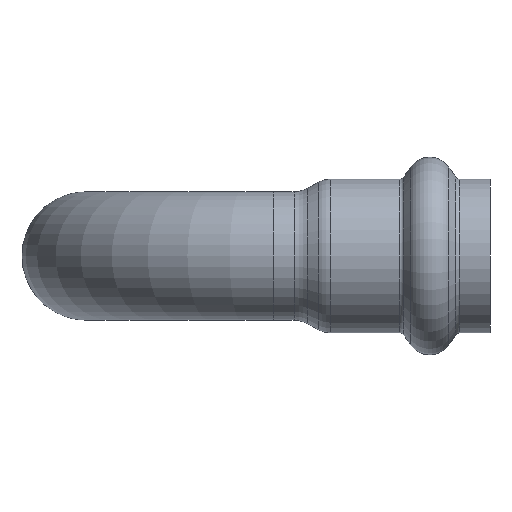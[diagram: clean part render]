
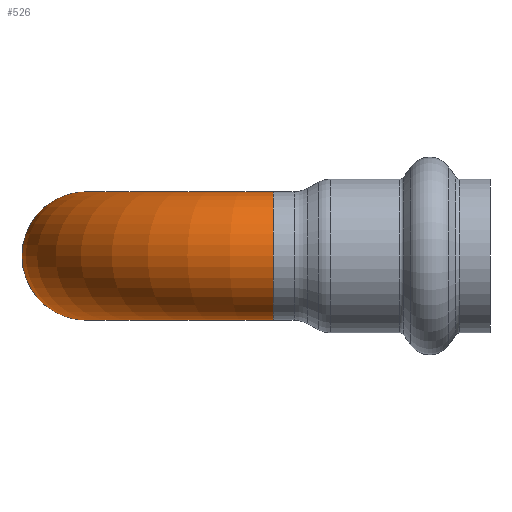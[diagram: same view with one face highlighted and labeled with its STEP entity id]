
A CAD part, left-side view. The second image highlights one B-rep face of the part: STEP entity #526.
In plain terms, the highlighted toroidal (fillet/blend) face has major radius 31.09 mm and minor radius 10.668 mm.
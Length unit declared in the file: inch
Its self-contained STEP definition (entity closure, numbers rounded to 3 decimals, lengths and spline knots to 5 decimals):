
#94=FACE_OUTER_BOUND('',#118,.T.);
#118=EDGE_LOOP('',(#359,#360,#361,#362,#363,#364));
#148=CIRCLE('',#576,0.42);
#149=CIRCLE('',#577,0.804);
#150=CIRCLE('',#578,0.42);
#151=CIRCLE('',#579,0.42);
#152=CIRCLE('',#580,0.42);
#215=VERTEX_POINT('',#912);
#216=VERTEX_POINT('',#913);
#217=VERTEX_POINT('',#915);
#218=VERTEX_POINT('',#917);
#276=EDGE_CURVE('',#215,#216,#148,.T.);
#277=EDGE_CURVE('',#216,#217,#149,.T.);
#278=EDGE_CURVE('',#217,#218,#150,.T.);
#279=EDGE_CURVE('',#218,#217,#151,.T.);
#280=EDGE_CURVE('',#216,#215,#152,.T.);
#359=ORIENTED_EDGE('',*,*,#276,.T.);
#360=ORIENTED_EDGE('',*,*,#277,.T.);
#361=ORIENTED_EDGE('',*,*,#278,.T.);
#362=ORIENTED_EDGE('',*,*,#279,.T.);
#363=ORIENTED_EDGE('',*,*,#277,.F.);
#364=ORIENTED_EDGE('',*,*,#280,.T.);
#518=TOROIDAL_SURFACE('',#575,1.224,0.42);
#526=ADVANCED_FACE('',(#94),#518,.T.);
#575=AXIS2_PLACEMENT_3D('',#911,#688,#689);
#576=AXIS2_PLACEMENT_3D('',#914,#690,#691);
#577=AXIS2_PLACEMENT_3D('',#916,#692,#693);
#578=AXIS2_PLACEMENT_3D('',#918,#694,#695);
#579=AXIS2_PLACEMENT_3D('',#919,#696,#697);
#580=AXIS2_PLACEMENT_3D('',#920,#698,#699);
#688=DIRECTION('center_axis',(0.,0.,1.));
#689=DIRECTION('ref_axis',(1.,0.,0.));
#690=DIRECTION('center_axis',(0.,1.,0.));
#691=DIRECTION('ref_axis',(1.,0.,0.));
#692=DIRECTION('center_axis',(0.,0.,-1.));
#693=DIRECTION('ref_axis',(1.,0.,0.));
#694=DIRECTION('center_axis',(-1.,0.,0.));
#695=DIRECTION('ref_axis',(0.,0.,-1.));
#696=DIRECTION('center_axis',(-1.,0.,0.));
#697=DIRECTION('ref_axis',(0.,0.,-1.));
#698=DIRECTION('center_axis',(0.,1.,0.));
#699=DIRECTION('ref_axis',(1.,0.,0.));
#911=CARTESIAN_POINT('Origin',(1.224,-1.224,0.));
#912=CARTESIAN_POINT('',(0.,-1.224,0.42));
#913=CARTESIAN_POINT('',(0.42,-1.224,0.));
#914=CARTESIAN_POINT('Origin',(0.,-1.224,0.));
#915=CARTESIAN_POINT('',(1.224,-0.42,0.));
#916=CARTESIAN_POINT('Origin',(1.224,-1.224,0.));
#917=CARTESIAN_POINT('',(1.224,0.,0.42));
#918=CARTESIAN_POINT('Origin',(1.224,0.,0.));
#919=CARTESIAN_POINT('Origin',(1.224,0.,0.));
#920=CARTESIAN_POINT('Origin',(0.,-1.224,0.));
